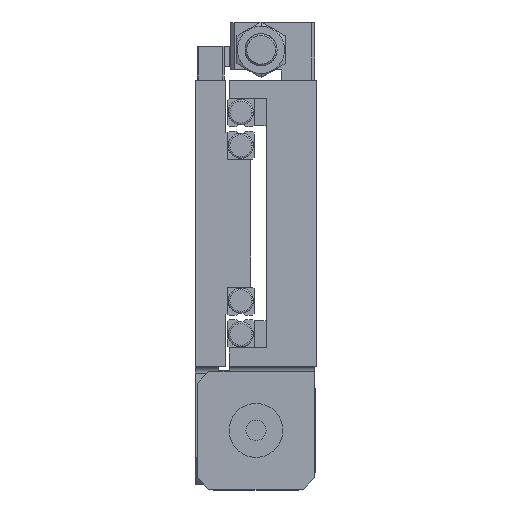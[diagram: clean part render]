
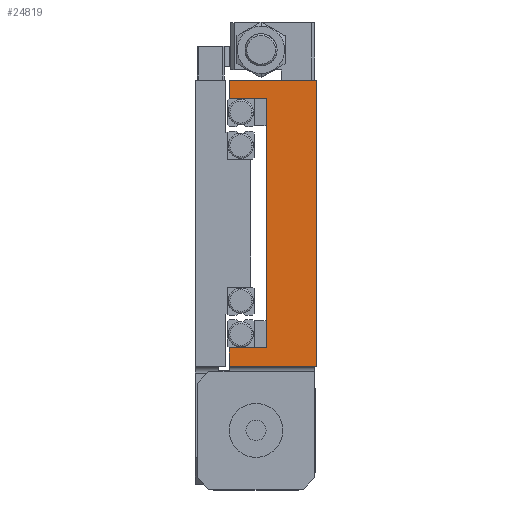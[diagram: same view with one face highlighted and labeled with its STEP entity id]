
A CAD part, left-side view. The second image highlights one B-rep face of the part: STEP entity #24819.
In plain terms, the highlighted planar face has unit normal (-1, 0, 0).
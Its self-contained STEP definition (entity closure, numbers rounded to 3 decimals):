
#383 = CARTESIAN_POINT ( 'NONE',  ( -177.5, 26., -37. ) ) ;
#565 = ORIENTED_EDGE ( 'NONE', *, *, #14086, .F. ) ;
#921 = AXIS2_PLACEMENT_3D ( 'NONE', #2370, #24690, #6555 ) ;
#938 = LINE ( 'NONE', #23903, #9083 ) ;
#1068 = VERTEX_POINT ( 'NONE', #383 ) ;
#1154 = ORIENTED_EDGE ( 'NONE', *, *, #3056, .F. ) ;
#1198 = VERTEX_POINT ( 'NONE', #13883 ) ;
#1419 = DIRECTION ( 'NONE',  ( 0., 0., 1. ) ) ;
#1921 = CARTESIAN_POINT ( 'NONE',  ( -177.5, 26., -42.5 ) ) ;
#1930 = ORIENTED_EDGE ( 'NONE', *, *, #25650, .T. ) ;
#2370 = CARTESIAN_POINT ( 'NONE',  ( -177.5, 26., 42.5 ) ) ;
#2488 = FACE_OUTER_BOUND ( 'NONE', #11416, .T. ) ;
#2773 = CARTESIAN_POINT ( 'NONE',  ( -177.5, 18.5, 37. ) ) ;
#3056 = EDGE_CURVE ( 'NONE', #25067, #19840, #938, .T. ) ;
#3086 = VECTOR ( 'NONE', #24039, 1000. ) ;
#3157 = CARTESIAN_POINT ( 'NONE',  ( -177.5, 26., 42.5 ) ) ;
#3719 = ORIENTED_EDGE ( 'NONE', *, *, #10168, .F. ) ;
#4406 = LINE ( 'NONE', #2773, #6464 ) ;
#5289 = CARTESIAN_POINT ( 'NONE',  ( -177.5, 0., 42.5 ) ) ;
#6464 = VECTOR ( 'NONE', #11033, 1000. ) ;
#6555 = DIRECTION ( 'NONE',  ( 0., 0., -1. ) ) ;
#7315 = VECTOR ( 'NONE', #9368, 1000. ) ;
#7586 = CARTESIAN_POINT ( 'NONE',  ( -177.5, 18.5, -37. ) ) ;
#7669 = CARTESIAN_POINT ( 'NONE',  ( -177.5, 26., 42.5 ) ) ;
#9083 = VECTOR ( 'NONE', #19710, 1000. ) ;
#9241 = LINE ( 'NONE', #7586, #10892 ) ;
#9368 = DIRECTION ( 'NONE',  ( 0., 0., 1. ) ) ;
#9801 = CARTESIAN_POINT ( 'NONE',  ( -177.5, 15., -29. ) ) ;
#10058 = CARTESIAN_POINT ( 'NONE',  ( -177.5, 0., -42.5 ) ) ;
#10168 = EDGE_CURVE ( 'NONE', #22327, #25143, #22093, .T. ) ;
#10453 = EDGE_CURVE ( 'NONE', #19840, #1068, #11803, .T. ) ;
#10479 = VERTEX_POINT ( 'NONE', #21794 ) ;
#10892 = VECTOR ( 'NONE', #25587, 1000. ) ;
#11033 = DIRECTION ( 'NONE',  ( 0., 1., 0. ) ) ;
#11130 = ORIENTED_EDGE ( 'NONE', *, *, #18476, .F. ) ;
#11416 = EDGE_LOOP ( 'NONE', ( #3719, #11505, #18639, #1154, #1930, #26234, #11130, #565 ) ) ;
#11505 = ORIENTED_EDGE ( 'NONE', *, *, #15680, .T. ) ;
#11754 = LINE ( 'NONE', #7669, #3086 ) ;
#11803 = LINE ( 'NONE', #3157, #7315 ) ;
#13002 = DIRECTION ( 'NONE',  ( 0., 0., 1. ) ) ;
#13519 = DIRECTION ( 'NONE',  ( 0., 0., 1. ) ) ;
#13883 = CARTESIAN_POINT ( 'NONE',  ( -177.5, 0., 42.5 ) ) ;
#14086 = EDGE_CURVE ( 'NONE', #25143, #22077, #4406, .T. ) ;
#14356 = CARTESIAN_POINT ( 'NONE',  ( -177.5, 15., -37. ) ) ;
#14656 = PLANE ( 'NONE',  #921 ) ;
#15023 = LINE ( 'NONE', #23299, #23921 ) ;
#15680 = EDGE_CURVE ( 'NONE', #22327, #1068, #9241, .T. ) ;
#16413 = CARTESIAN_POINT ( 'NONE',  ( -177.5, 26., 37. ) ) ;
#17658 = VECTOR ( 'NONE', #1419, 1000. ) ;
#18476 = EDGE_CURVE ( 'NONE', #22077, #10479, #15023, .T. ) ;
#18639 = ORIENTED_EDGE ( 'NONE', *, *, #10453, .F. ) ;
#19710 = DIRECTION ( 'NONE',  ( 0., 1., 0. ) ) ;
#19840 = VERTEX_POINT ( 'NONE', #1921 ) ;
#20055 = CARTESIAN_POINT ( 'NONE',  ( -177.5, 15., 37. ) ) ;
#21794 = CARTESIAN_POINT ( 'NONE',  ( -177.5, 26., 42.5 ) ) ;
#22077 = VERTEX_POINT ( 'NONE', #16413 ) ;
#22093 = LINE ( 'NONE', #9801, #17658 ) ;
#22327 = VERTEX_POINT ( 'NONE', #14356 ) ;
#23299 = CARTESIAN_POINT ( 'NONE',  ( -177.5, 26., 42.5 ) ) ;
#23805 = LINE ( 'NONE', #5289, #25926 ) ;
#23903 = CARTESIAN_POINT ( 'NONE',  ( -177.5, 0., -42.5 ) ) ;
#23921 = VECTOR ( 'NONE', #13002, 1000. ) ;
#24039 = DIRECTION ( 'NONE',  ( 0., -1., 0. ) ) ;
#24690 = DIRECTION ( 'NONE',  ( 1., 0., 0. ) ) ;
#24819 = ADVANCED_FACE ( 'NONE', ( #2488 ), #14656, .F. ) ;
#25067 = VERTEX_POINT ( 'NONE', #10058 ) ;
#25143 = VERTEX_POINT ( 'NONE', #20055 ) ;
#25587 = DIRECTION ( 'NONE',  ( 0., 1., 0. ) ) ;
#25650 = EDGE_CURVE ( 'NONE', #25067, #1198, #23805, .T. ) ;
#25878 = EDGE_CURVE ( 'NONE', #10479, #1198, #11754, .T. ) ;
#25926 = VECTOR ( 'NONE', #13519, 1000. ) ;
#26234 = ORIENTED_EDGE ( 'NONE', *, *, #25878, .F. ) ;
